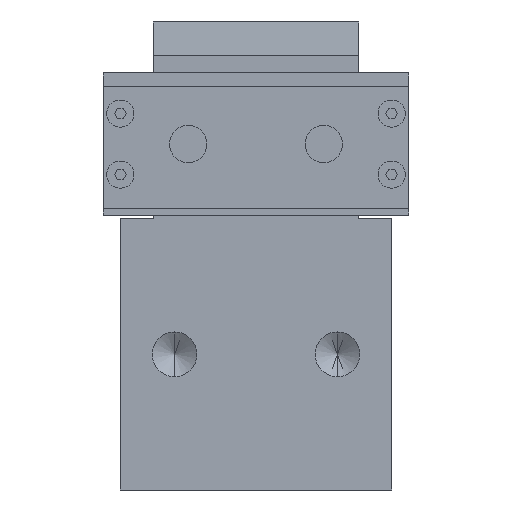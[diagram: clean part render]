
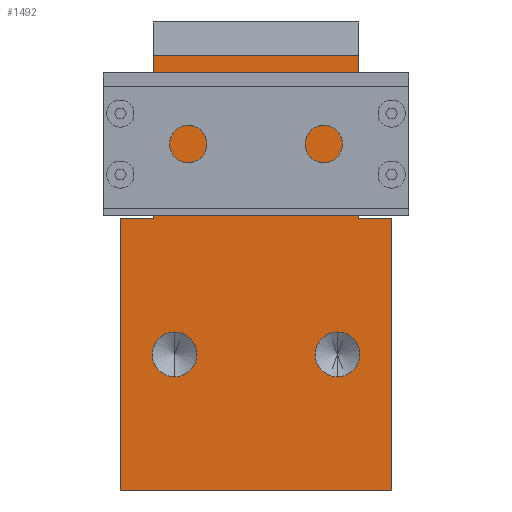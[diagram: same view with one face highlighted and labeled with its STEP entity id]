
A CAD part, left-side view. The second image highlights one B-rep face of the part: STEP entity #1492.
In plain terms, the highlighted planar face has unit normal (-1, 0, 0).
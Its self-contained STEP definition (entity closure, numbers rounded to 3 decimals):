
#86 = CARTESIAN_POINT ( 'NONE',  ( -45., -35.15, 40. ) ) ;
#93 = CARTESIAN_POINT ( 'NONE',  ( -45., -40., 40. ) ) ;
#158 = LINE ( 'NONE', #218, #217 ) ;
#165 = DIRECTION ( 'NONE',  ( 0., -1., 0. ) ) ;
#167 = VECTOR ( 'NONE', #165, 1000. ) ;
#170 = CARTESIAN_POINT ( 'NONE',  ( -45., 0., 40. ) ) ;
#172 = LINE ( 'NONE', #170, #167 ) ;
#216 = DIRECTION ( 'NONE',  ( 0., 0., -1. ) ) ;
#217 = VECTOR ( 'NONE', #216, 1000. ) ;
#218 = CARTESIAN_POINT ( 'NONE',  ( -45., -40., 40. ) ) ;
#236 = CARTESIAN_POINT ( 'NONE',  ( -45., 0., 0. ) ) ;
#340 = CARTESIAN_POINT ( 'NONE',  ( -45., -40., 0. ) ) ;
#462 = CARTESIAN_POINT ( 'NONE',  ( -45., -4.85, 40. ) ) ;
#481 = CARTESIAN_POINT ( 'NONE',  ( -45., 0., 40. ) ) ;
#516 = DIRECTION ( 'NONE',  ( 0., -1., 0. ) ) ;
#517 = VECTOR ( 'NONE', #516, 1000. ) ;
#518 = CARTESIAN_POINT ( 'NONE',  ( -45., 0., 40. ) ) ;
#520 = LINE ( 'NONE', #518, #517 ) ;
#556 = DIRECTION ( 'NONE',  ( 0., 0., -1. ) ) ;
#557 = VECTOR ( 'NONE', #556, 1000. ) ;
#568 = CARTESIAN_POINT ( 'NONE',  ( -45., 0., 40. ) ) ;
#575 = LINE ( 'NONE', #568, #557 ) ;
#1429 = EDGE_LOOP ( 'NONE', ( #1491, #1457 ) ) ;
#1435 = ORIENTED_EDGE ( 'NONE', *, *, #3580, .F. ) ;
#1436 = ORIENTED_EDGE ( 'NONE', *, *, #2702, .F. ) ;
#1457 = ORIENTED_EDGE ( 'NONE', *, *, #3621, .F. ) ;
#1458 = ORIENTED_EDGE ( 'NONE', *, *, #1459, .F. ) ;
#1459 = EDGE_CURVE ( 'NONE', #3601, #3622, #1727, .T. ) ;
#1471 = EDGE_CURVE ( 'NONE', #3607, #3575, #1754, .T. ) ;
#1472 = EDGE_LOOP ( 'NONE', ( #1458, #1435 ) ) ;
#1491 = ORIENTED_EDGE ( 'NONE', *, *, #1471, .F. ) ;
#1492 = ADVANCED_FACE ( 'NONE', ( #1957, #1954, #1952 ), #1916, .F. ) ;
#1508 = EDGE_LOOP ( 'NONE', ( #1436, #2673, #2756, #2662, #2661, #2708, #2688, #2689 ) ) ;
#1727 = CIRCLE ( 'NONE', #1729, 3.3 ) ;
#1729 = AXIS2_PLACEMENT_3D ( 'NONE', #1757, #1756, #1755 ) ;
#1752 = DIRECTION ( 'NONE',  ( -1., 0., 0. ) ) ;
#1753 = CARTESIAN_POINT ( 'NONE',  ( -45., -8., 20. ) ) ;
#1754 = CIRCLE ( 'NONE', #1758, 3.3 ) ;
#1755 = DIRECTION ( 'NONE',  ( 0., 0., 1. ) ) ;
#1756 = DIRECTION ( 'NONE',  ( -1., 0., 0. ) ) ;
#1757 = CARTESIAN_POINT ( 'NONE',  ( -45., -32., 20. ) ) ;
#1758 = AXIS2_PLACEMENT_3D ( 'NONE', #1753, #1752, #1761 ) ;
#1761 = DIRECTION ( 'NONE',  ( 0., 0., 1. ) ) ;
#1916 = PLANE ( 'NONE',  #1953 ) ;
#1923 = DIRECTION ( 'NONE',  ( 0., 1., 0. ) ) ;
#1952 = FACE_OUTER_BOUND ( 'NONE', #1508, .T. ) ;
#1953 = AXIS2_PLACEMENT_3D ( 'NONE', #1962, #1956, #1923 ) ;
#1954 = FACE_BOUND ( 'NONE', #1472, .T. ) ;
#1956 = DIRECTION ( 'NONE',  ( 1., 0., 0. ) ) ;
#1957 = FACE_BOUND ( 'NONE', #1429, .T. ) ;
#1962 = CARTESIAN_POINT ( 'NONE',  ( -45., 0., 40. ) ) ;
#2496 = DIRECTION ( 'NONE',  ( 0., -1., 0. ) ) ;
#2499 = VECTOR ( 'NONE', #2496, 1000. ) ;
#2500 = CARTESIAN_POINT ( 'NONE',  ( -45., 0., 0. ) ) ;
#2501 = LINE ( 'NONE', #2500, #2499 ) ;
#2660 = VERTEX_POINT ( 'NONE', #4364 ) ;
#2661 = ORIENTED_EDGE ( 'NONE', *, *, #5636, .T. ) ;
#2662 = ORIENTED_EDGE ( 'NONE', *, *, #5521, .F. ) ;
#2673 = ORIENTED_EDGE ( 'NONE', *, *, #2712, .T. ) ;
#2688 = ORIENTED_EDGE ( 'NONE', *, *, #4156, .F. ) ;
#2689 = ORIENTED_EDGE ( 'NONE', *, *, #4130, .F. ) ;
#2691 = EDGE_CURVE ( 'NONE', #2744, #5543, #4466, .T. ) ;
#2702 = EDGE_CURVE ( 'NONE', #2660, #4021, #4449, .T. ) ;
#2708 = ORIENTED_EDGE ( 'NONE', *, *, #4390, .T. ) ;
#2712 = EDGE_CURVE ( 'NONE', #2660, #2744, #4509, .T. ) ;
#2744 = VERTEX_POINT ( 'NONE', #4581 ) ;
#2756 = ORIENTED_EDGE ( 'NONE', *, *, #2691, .T. ) ;
#3575 = VERTEX_POINT ( 'NONE', #5599 ) ;
#3580 = EDGE_CURVE ( 'NONE', #3622, #3601, #5597, .T. ) ;
#3601 = VERTEX_POINT ( 'NONE', #5584 ) ;
#3607 = VERTEX_POINT ( 'NONE', #5680 ) ;
#3621 = EDGE_CURVE ( 'NONE', #3575, #3607, #5655, .T. ) ;
#3622 = VERTEX_POINT ( 'NONE', #5646 ) ;
#4020 = VERTEX_POINT ( 'NONE', #93 ) ;
#4021 = VERTEX_POINT ( 'NONE', #86 ) ;
#4130 = EDGE_CURVE ( 'NONE', #4021, #4020, #172, .T. ) ;
#4156 = EDGE_CURVE ( 'NONE', #4020, #4511, #158, .T. ) ;
#4364 = CARTESIAN_POINT ( 'NONE',  ( -45., -35.15, 64. ) ) ;
#4390 = EDGE_CURVE ( 'NONE', #4392, #4511, #2501, .T. ) ;
#4392 = VERTEX_POINT ( 'NONE', #236 ) ;
#4440 = DIRECTION ( 'NONE',  ( 0., 0., -1. ) ) ;
#4447 = VECTOR ( 'NONE', #4440, 1000. ) ;
#4448 = CARTESIAN_POINT ( 'NONE',  ( -45., -35.15, 69. ) ) ;
#4449 = LINE ( 'NONE', #4448, #4447 ) ;
#4454 = DIRECTION ( 'NONE',  ( 0., 0., -1. ) ) ;
#4456 = VECTOR ( 'NONE', #4454, 1000. ) ;
#4457 = CARTESIAN_POINT ( 'NONE',  ( -45., -4.85, 69. ) ) ;
#4466 = LINE ( 'NONE', #4457, #4456 ) ;
#4506 = DIRECTION ( 'NONE',  ( 0., 1., 0. ) ) ;
#4507 = VECTOR ( 'NONE', #4506, 1000. ) ;
#4508 = CARTESIAN_POINT ( 'NONE',  ( -45., -4.85, 64. ) ) ;
#4509 = LINE ( 'NONE', #4508, #4507 ) ;
#4511 = VERTEX_POINT ( 'NONE', #340 ) ;
#4581 = CARTESIAN_POINT ( 'NONE',  ( -45., -4.85, 64. ) ) ;
#5460 = VERTEX_POINT ( 'NONE', #481 ) ;
#5521 = EDGE_CURVE ( 'NONE', #5460, #5543, #520, .T. ) ;
#5543 = VERTEX_POINT ( 'NONE', #462 ) ;
#5579 = DIRECTION ( 'NONE',  ( 0., 0., 1. ) ) ;
#5580 = DIRECTION ( 'NONE',  ( -1., 0., 0. ) ) ;
#5581 = CARTESIAN_POINT ( 'NONE',  ( -45., -32., 20. ) ) ;
#5582 = AXIS2_PLACEMENT_3D ( 'NONE', #5581, #5580, #5579 ) ;
#5584 = CARTESIAN_POINT ( 'NONE',  ( -45., -32., 23.3 ) ) ;
#5597 = CIRCLE ( 'NONE', #5582, 3.3 ) ;
#5599 = CARTESIAN_POINT ( 'NONE',  ( -45., -8., 16.7 ) ) ;
#5636 = EDGE_CURVE ( 'NONE', #5460, #4392, #575, .T. ) ;
#5646 = CARTESIAN_POINT ( 'NONE',  ( -45., -32., 16.7 ) ) ;
#5647 = DIRECTION ( 'NONE',  ( 0., 0., 1. ) ) ;
#5648 = DIRECTION ( 'NONE',  ( -1., 0., 0. ) ) ;
#5649 = CARTESIAN_POINT ( 'NONE',  ( -45., -8., 20. ) ) ;
#5650 = AXIS2_PLACEMENT_3D ( 'NONE', #5649, #5648, #5647 ) ;
#5655 = CIRCLE ( 'NONE', #5650, 3.3 ) ;
#5680 = CARTESIAN_POINT ( 'NONE',  ( -45., -8., 23.3 ) ) ;
